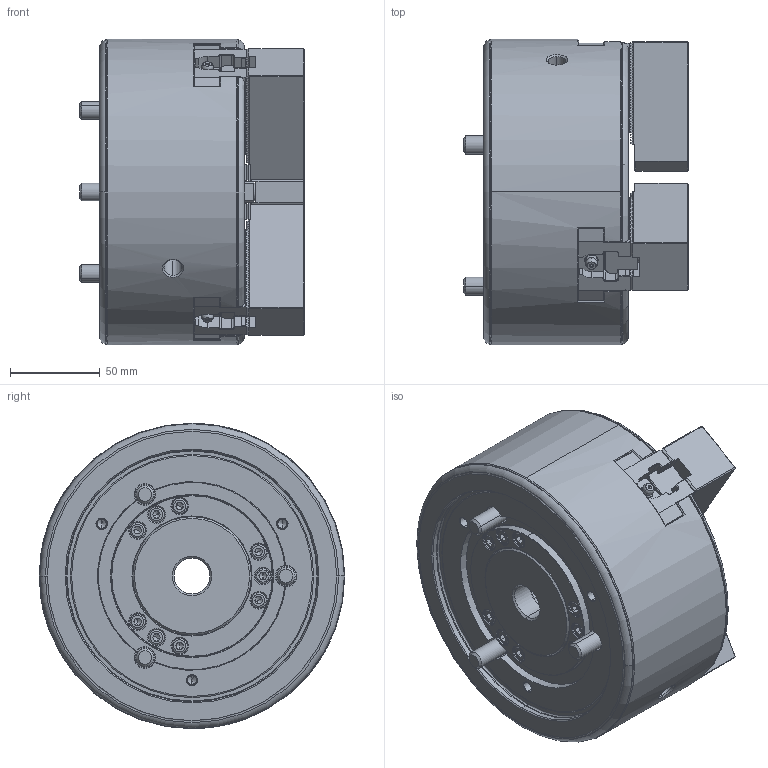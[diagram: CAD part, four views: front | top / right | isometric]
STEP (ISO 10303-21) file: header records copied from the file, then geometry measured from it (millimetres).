
FILE_DESCRIPTION (( 'STEP AP214' ), '1' );
FILE_NAME ('BR06_OC.STEP', '2023-02-07T04:17:13', ( '' ), ( '' ), 'SwSTEP 2.0', 'SolidWorks 2020', '' );
FILE_SCHEMA (( 'AUTOMOTIVE_DESIGN' ));
Length unit declared in the file: millimetre
Products named in the file (5): Part2^BR06-Nishi07 クミタテ; Bアナツキ M10×25; BR06-Nishi05 Plus-Tナット_61P447483-1 BB206 Tﾅｯﾄ-ﾃﾞﾌｫﾙﾄ; BR06_OC; 61P302540-2 SB06B1 ソフトジョー_SB06B1-ﾃﾞﾌｫﾙﾄ(外観用)
Assembly tree (13 placements, depth 2):
  BR06_OC
    61P302540-2 SB06B1 ソフトジョー_SB06B1-ﾃﾞﾌｫﾙﾄ(外観用)  x3
    BR06-Nishi05 Plus-Tナット_61P447483-1 BB206 Tﾅｯﾄ-ﾃﾞﾌｫﾙﾄ  x3
    Bアナツキ M10×25  x6
    Part2^BR06-Nishi07 クミタテ
Bounding box: 125.2 x 170 x 170 mm (x, y, z)
Volume: 1749579.7 mm3; surface area: 212893.6 mm2
Topology: 13 solids, 40 shells, 3510 faces, 9426 edges, 6042 vertices
Faces by surface type: plane 2455, cylinder 451, cone 334, bspline 150, torus 108, sphere 12
Entity records: 89807 total; most frequent: CARTESIAN_POINT 22522, ORIENTED_EDGE 14450, DIRECTION 13127, EDGE_CURVE 7225, VECTOR 5221, LINE 5221, VERTEX_POINT 4664, AXIS2_PLACEMENT_3D 3953
